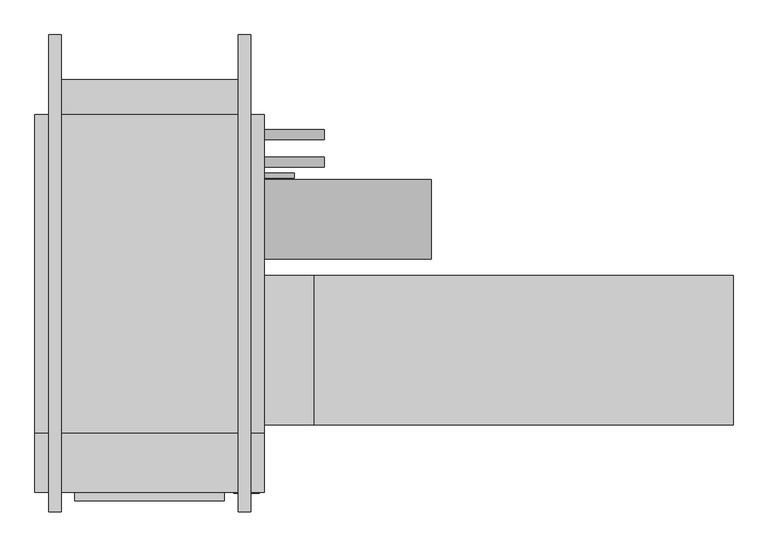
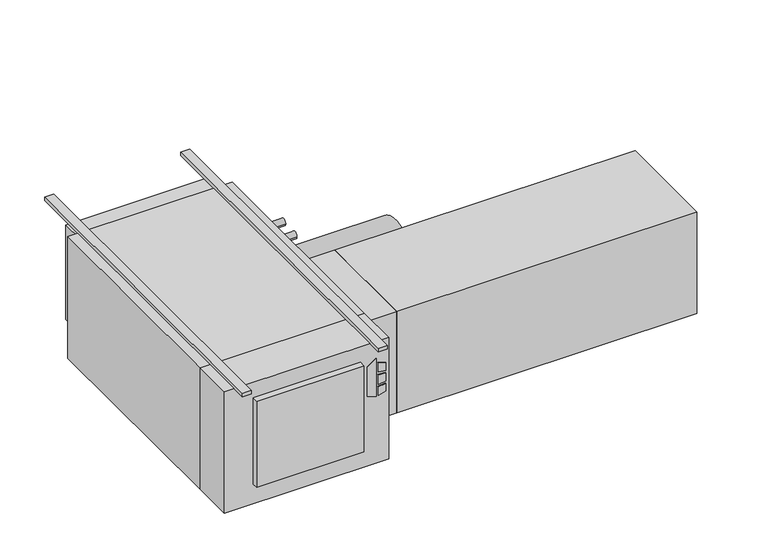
"""IFC4 building model written with IfcOpenShell, lengths in millimetres: proxy geometry."""

from ifc_helpers import new_model, si_unit, point, frame, frame_2d, origin, origin_with_axes, place, context, project, spatial, polyline, circle_curve, trimmed, segment, composite_curve, outline, extrude, source, transform, mapped, element, save


def mechanical_equipment_3730871c(model_context):
    return source(origin(), model_context, "Body", "SweptSolid", [
        extrude(outline(polyline([(-193.2519297, 366.7868862), (-203.2, 398.9602728), (-61.0290756, 398.9602728), (-84.0510817, 366.7868862), (-193.2519297, 366.7868862)])), frame((0.0, -797.052, 0.0), z_axis=(0.0, 1.0, 0.0), x_axis=(0.0, 0.0, 1.0)), (0.0, 0.0, 1.0), 3.175),
        extrude(outline(polyline([(-114.2526443, 405.7186058), (-117.4550368, 431.8), (-88.2261958, 431.8), (-80.1617807, 405.7186058), (-114.2526443, 405.7186058)])), frame((0.0, -797.052, 0.0), z_axis=(0.0, 1.0, 0.0), x_axis=(0.0, 0.0, 1.0)), (0.0, 0.0, 1.0), 3.175),
        extrude(outline(polyline([(-166.1161712, 431.8), (-169.7816721, 405.7186058), (-203.2, 405.7186058), (-194.5657628, 431.8), (-166.1161712, 431.8)])), frame((0.0, -797.052, 0.0), z_axis=(0.0, 1.0, 0.0), x_axis=(0.0, 0.0, 1.0)), (0.0, 0.0, 1.0), 3.175),
        extrude(outline(polyline([(-126.8010097, 431.8), (-124.5191834, 405.7186058), (-160.4567319, 405.7186058), (-157.7154669, 431.8), (-126.8010097, 431.8)])), frame((0.0, -797.052, 0.0), z_axis=(0.0, 1.0, 0.0), x_axis=(0.0, 0.0, 1.0)), (0.0, 0.0, 1.0), 3.175),
        extrude(outline(polyline([(444.5, -793.877), (-139.7, -793.877), (-139.7, -644.525), (444.5, -644.525), (444.5, -793.877)])), frame((0.0, 0.0, -457.2), z_axis=(0.0, 0.0, 1.0), x_axis=(1.0, 0.0, 0.0)), (0.0, 0.0, 1.0), 457.2),
        extrude(outline(polyline([(342.9, -816.229), (-38.1, -816.229), (-38.1, -793.877), (342.9, -793.877), (342.9, -816.229)])), frame((0.0, 0.0, -381.0), z_axis=(0.0, 0.0, 1.0), x_axis=(1.0, 0.0, 0.0)), (0.0, 0.0, 1.0), 323.85),
        extrude(outline(polyline([(1638.3, -241.3), (1638.3, -622.3), (571.5, -622.3), (571.5, -241.3), (1638.3, -241.3)])), frame((0.0, 0.0, -431.8), z_axis=(0.0, 0.0, 1.0), x_axis=(1.0, 0.0, 0.0)), (0.0, 0.0, 1.0), 381.0),
        extrude(outline(polyline([(571.5, -241.3), (571.5, -622.3), (444.5, -622.3), (444.5, -241.3), (571.5, -241.3)])), frame((0.0, 0.0, -431.8), z_axis=(0.0, 0.0, 1.0), x_axis=(1.0, 0.0, 0.0)), (0.0, 0.0, 1.0), 381.0),
        extrude(outline(composite_curve([segment(trimmed(circle_curve(frame_2d((117.475, -171.45)), 12.7), [point((130.175, -171.45))], [point((104.775, -171.45))], False, "CARTESIAN"), True, "CONTINUOUS"), segment(trimmed(circle_curve(frame_2d((117.475, -171.45)), 12.7), [point((104.775, -171.45))], [point((130.175, -171.45))], False, "CARTESIAN"), True, "CONTINUOUS")], self_intersect=False)), frame((444.5, 0.0, 0.0), z_axis=(1.0, 0.0, 0.0), x_axis=(0.0, 1.0, 0.0)), (0.0, 0.0, 1.0), 152.4),
        extrude(outline(composite_curve([segment(trimmed(circle_curve(frame_2d((47.625, -177.8)), 12.7), [point((60.325, -177.8))], [point((34.925, -177.8))], False, "CARTESIAN"), True, "CONTINUOUS"), segment(trimmed(circle_curve(frame_2d((47.625, -177.8)), 12.7), [point((34.925, -177.8))], [point((60.325, -177.8))], False, "CARTESIAN"), True, "CONTINUOUS")], self_intersect=False)), frame((444.5, 0.0, 0.0), z_axis=(1.0, 0.0, 0.0), x_axis=(0.0, 1.0, 0.0)), (0.0, 0.0, 1.0), 152.4),
        extrude(outline(composite_curve([segment(trimmed(circle_curve(frame_2d((-98.4896516, -228.6360165)), 101.6), [point((3.1103484, -228.6360165))], [point((-200.0896516, -228.6360165))], False, "CARTESIAN"), True, "CONTINUOUS"), segment(trimmed(circle_curve(frame_2d((-98.4896516, -228.6360165)), 101.6), [point((-200.0896516, -228.6360165))], [point((3.1103484, -228.6360165))], False, "CARTESIAN"), True, "CONTINUOUS")], self_intersect=False)), frame((444.5, 0.0, 0.0), z_axis=(1.0, 0.0, 0.0), x_axis=(0.0, 1.0, 0.0)), (0.0, 0.0, 1.0), 425.45),
        extrude(outline(composite_curve([segment(trimmed(circle_curve(frame_2d((12.7, -409.575)), 6.35), [point((19.05, -409.575))], [point((6.35, -409.575))], False, "CARTESIAN"), True, "CONTINUOUS"), segment(trimmed(circle_curve(frame_2d((12.7, -409.575)), 6.35), [point((6.35, -409.575))], [point((19.05, -409.575))], False, "CARTESIAN"), True, "CONTINUOUS")], self_intersect=False)), frame((444.5, 0.0, 0.0), z_axis=(1.0, 0.0, 0.0), x_axis=(0.0, 1.0, 0.0)), (0.0, 0.0, 1.0), 76.2),
        extrude(outline(polyline([(444.5, 168.275), (444.5, -644.525), (-139.7, -644.525), (-139.7, 168.275), (444.5, 168.275)])), frame((0.0, 0.0, -457.2), z_axis=(0.0, 0.0, 1.0), x_axis=(1.0, 0.0, 0.0)), (0.0, 0.0, 1.0), 457.2),
        extrude(outline(polyline([(-95.25, 257.175), (400.05, 257.175), (400.05, 168.275), (-95.25, 168.275), (-95.25, 257.175)])), frame((0.0, 0.0, -381.0), z_axis=(0.0, 0.0, 1.0), x_axis=(1.0, 0.0, 0.0)), (0.0, 0.0, 1.0), 355.6),
        extrude(outline(polyline([(-73.025, 371.475), (-73.025, -844.677), (-104.775, -844.677), (-104.775, 371.475), (-73.025, 371.475)])), origin_with_axes(), (0.0, 0.0, 1.0), 12.7),
        extrude(outline(polyline([(409.575, 371.475), (409.575, -844.677), (377.825, -844.677), (377.825, 371.475), (409.575, 371.475)])), origin_with_axes(), (0.0, 0.0, 1.0), 12.7),
    ])


if __name__ == "__main__":
    model = new_model("IFC4")
    model_context = context("Model", 3, world=origin())
    ifc_project = project(units=[si_unit("LENGTHUNIT", "METRE", prefix="MILLI")], contexts=[model_context])
    site = spatial("IfcSite", under=ifc_project)
    building = spatial("IfcBuilding", under=site)
    placement = place(None, origin())
    mechanical_equipment_shape = mechanical_equipment_3730871c(model_context)
    element("IfcBuildingElementProxy", 1, Name="High_Capacity_Horizontal_Cabinet_Fan_Coil_Unit_-_HTY_-_IEC_-_2 Pipe, Elec Heat_WO-Attenuator_RH Side_2022 : Size 06 - 277v/60Hz/1Ph - 8/0 Coil 4.0kW - 8\" AirIn", ObjectType="High_Capacity_Horizontal_Cabinet_Fan_Coil_Unit_-_HTY_-_IEC_-_2 Pipe, Elec Heat_WO-Attenuator_RH Side_2022 : Size 06 - 277v/60Hz/1Ph - 8/0 Coil 4.0kW - 8\" AirIn", at=placement, inside=building, context=model_context, shape_type="MappedRepresentation", body=[
        mapped(mechanical_equipment_shape, transform((0.0, 0.0, 0.0), x_axis=(1.0, 0.0, 0.0), y_axis=(0.0, 1.0, 0.0), z_axis=(0.0, 0.0, 1.0))),
    ])
    save(model, "model.ifc")
